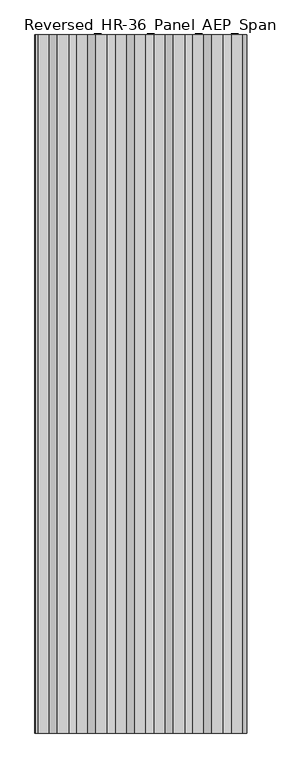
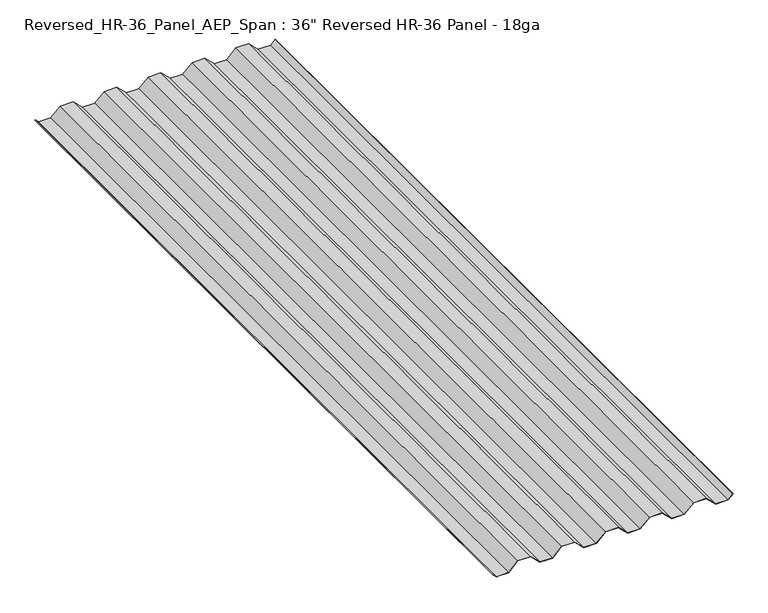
"""IFC4 building model written with IfcOpenShell, lengths in millimetres: proxy geometry."""

from ifc_helpers import new_model, si_unit, frame, origin, place, context, project, spatial, polyline, outline, extrude, source, transform, mapped, element, save


def proxy_33632e19(model_context):
    return source(origin(), model_context, "Body", "SweptSolid", [
        extrude(outline(polyline([(0.0, -247.8557567), (37.465, -209.0596134), (37.465, -156.7003866), (0.0, -117.9042433), (0.0, -64.9757567), (37.465, -26.1796134), (37.465, 26.1796134), (0.0, 64.9757567), (0.0, 117.9042433), (37.465, 156.7003866), (37.465, 209.0596134), (0.0, 247.8557567), (0.0, 300.7842433), (37.465, 339.5803866), (37.465, 391.9396134), (0.0, 430.7357567), (0.0, 483.6642433), (19.5273022, 503.8853568), (20.1632012, 503.2494578), (0.89916, 483.3009591), (0.89916, 431.0990409), (38.36416, 392.3028977), (38.36416, 339.2171023), (0.89916, 300.4209591), (0.89916, 248.2190409), (38.36416, 209.4228977), (38.36416, 156.3371023), (0.89916, 117.5409591), (0.89916, 65.3390409), (38.36416, 26.5428977), (38.36416, -26.5428977), (0.89916, -65.3390409), (0.89916, -117.5409591), (38.36416, -156.3371023), (38.36416, -209.4228977), (0.89916, -248.2190409), (0.89916, -300.4209591), (38.36416, -339.2171023), (38.36416, -392.8721575), (0.89916, -431.6683007), (0.89916, -483.3009619), (14.7449924, -497.6387411), (14.1090934, -498.2746401), (0.0, -483.6642462), (0.0, -431.3050165), (37.465, -392.5088732), (37.465, -339.5803866), (0.0, -300.7842433), (0.0, -247.8557567)])), frame((0.0, -3302.0, 0.0), z_axis=(0.0, 1.0, 0.0), x_axis=(0.0, 0.0, 1.0)), (0.0, 0.0, 1.0), 3302.0),
    ])


if __name__ == "__main__":
    model = new_model("IFC4")
    model_context = context("Model", 3, world=origin())
    ifc_project = project(units=[si_unit("LENGTHUNIT", "METRE", prefix="MILLI")], contexts=[model_context])
    site = spatial("IfcSite", under=ifc_project)
    building = spatial("IfcBuilding", under=site)
    placement = place(None, origin())
    proxy_shape = proxy_33632e19(model_context)
    element("IfcBuildingElementProxy", 1, Name="Reversed_HR-36_Panel_AEP_Span : 36\" Reversed HR-36 Panel - 18ga", ObjectType="Reversed_HR-36_Panel_AEP_Span : 36\" Reversed HR-36 Panel - 18ga", at=placement, inside=building, context=model_context, shape_type="MappedRepresentation", body=[
        mapped(proxy_shape, transform((0.0, 0.0, 0.0), x_axis=(1.0, 0.0, 0.0), y_axis=(0.0, 1.0, 0.0), z_axis=(0.0, 0.0, 1.0))),
    ])
    save(model, "model.ifc")
